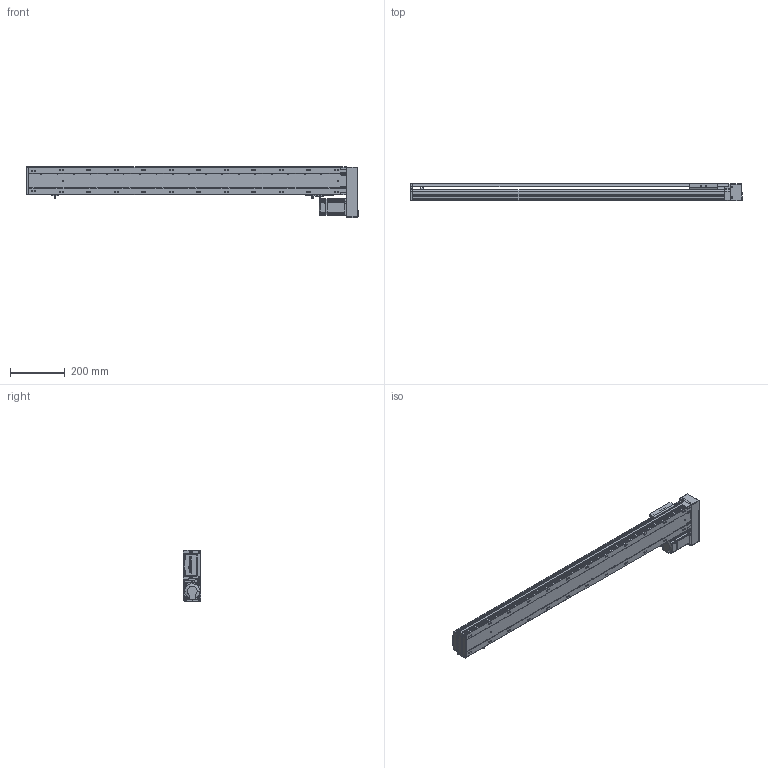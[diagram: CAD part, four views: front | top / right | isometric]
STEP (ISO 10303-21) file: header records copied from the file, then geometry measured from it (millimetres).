
FILE_DESCRIPTION (( 'STEP AP203' ), '1' );
FILE_NAME ('RY100S-L1620-950-RK(15双轨).SLDASM_950.step', '2021-03-12T06:51:42', ( '盈信电脑' ), ( '东莞市道滘镇水果街19号' ), 'SwSTEP 2.0', 'SolidWorks 2012', '' );
FILE_SCHEMA (( 'CONFIG_CONTROL_DESIGN' ));
Products named in the file (15): RY100S-左右折电机端-(15双轨)_550; RY100S-L1620-950-RK(15邧寢).SLDASM_950; RY100S转折电机安装板（15双轨）; RY100S左右折电机罩（15双轨）; 侂狟200W萇儂; 1; 滅袉蝶18-24; RY100綴裔啣; RY100S转折电机端支撑座(15双轨); 覜茼ん672; RY100S铝滑块（15双轨单滑块）; RY100俋离覜茼え; 滅袉蝶18-10; RY100S-950-RK转折型材底座(15双轨)_950; RY100S-950-RK转折型材上盖(15双轨)_950
Assembly tree (17 placements, depth 4):
  RY100S-L1620-950-RK(15邧寢).SLDASM_950
    RY100S-950-RK转折型材底座(15双轨)_950
    RY100S-950-RK转折型材上盖(15双轨)_950
    RY100S铝滑块（15双轨单滑块）
    覜茼ん672  x3
    滅袉蝶18-10  x2
    RY100俋离覜茼え
    RY100S转折电机端支撑座(15双轨)
    滅袉蝶18-24
    RY100綴裔啣
    RY100S-左右折电机端-(15双轨)_550
      侂狟200W萇儂
        1
      RY100S左右折电机罩（15双轨）
      RY100S转折电机安装板（15双轨）
Bounding box: 1207.5 x 65 x 186.1 mm (x, y, z)
Volume: 2395582.2 mm3; surface area: 1040052.3 mm2
Topology: 15 solids, 15 shells, 2493 faces, 7012 edges, 4556 vertices
Faces by surface type: plane 1284, cylinder 984, cone 137, bspline 88
Entity records: 82510 total; most frequent: CARTESIAN_POINT 21182, ORIENTED_EDGE 12832, DIRECTION 11989, EDGE_CURVE 6416, VERTEX_POINT 4224, AXIS2_PLACEMENT_3D 4052, VECTOR 3885, LINE 3885
